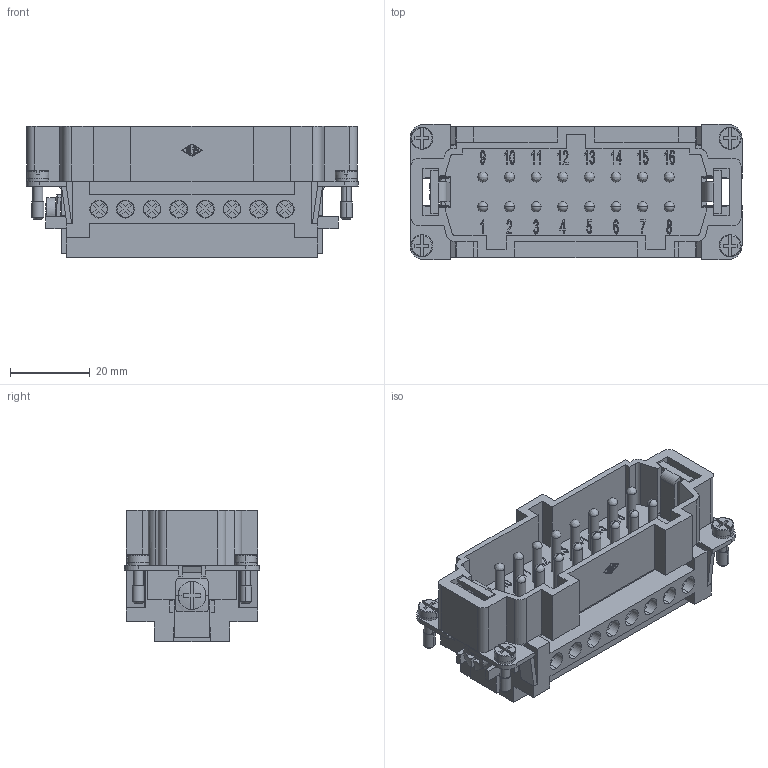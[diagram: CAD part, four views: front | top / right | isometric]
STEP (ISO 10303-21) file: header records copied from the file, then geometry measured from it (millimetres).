
FILE_DESCRIPTION (( 'STEP AP214' ), '1' );
FILE_NAME ('CNEM16.STEP', '2015-05-12T12:38:49', ( 'richard gronsfeld' ), ( '' ), 'SwSTEP 2.0', 'SolidWorks 2007', '' );
FILE_SCHEMA (( 'AUTOMOTIVE_DESIGN' ));
Length unit declared in the file: millimetre
Products named in the file (1): CNEM16
Bounding box: 83.5 x 34 x 33 mm (x, y, z)
Volume: 36240.3 mm3; surface area: 28946.6 mm2
Topology: 3 solids, 3 shells, 1748 faces, 4748 edges, 3117 vertices
Faces by surface type: plane 1113, bspline 327, cylinder 277, sphere 17, cone 8, torus 6
Entity records: 75487 total; most frequent: CARTESIAN_POINT 14204, ORIENTED_EDGE 9396, DIRECTION 7543, EDGE_CURVE 4698, LINE 3191, VECTOR 3191, VERTEX_POINT 3101, AXIS2_PLACEMENT_3D 2176
